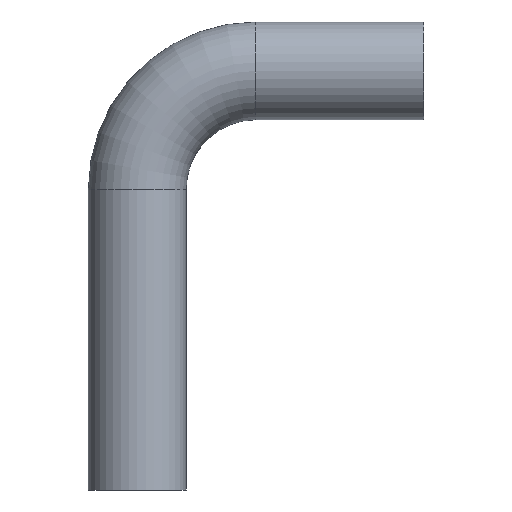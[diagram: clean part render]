
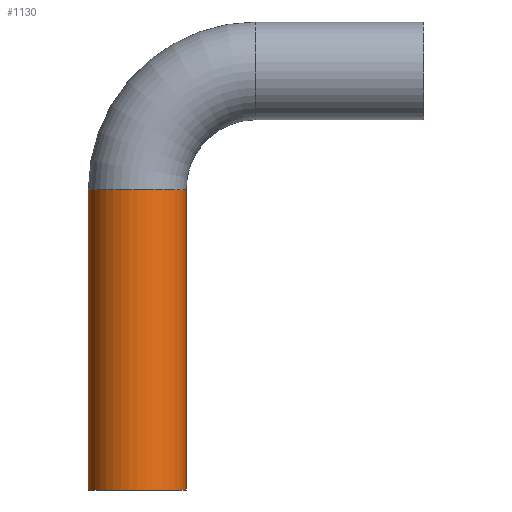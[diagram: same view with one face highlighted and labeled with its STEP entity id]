
A CAD part, front view. The second image highlights one B-rep face of the part: STEP entity #1130.
In plain terms, the highlighted cylindrical face has radius 14 mm (diameter 28 mm), a partial arc.
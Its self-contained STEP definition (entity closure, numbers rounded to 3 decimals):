
#210=CARTESIAN_POINT('',(46.433,49.631,0.));
#220=DIRECTION('',(0.,0.,1.));
#230=DIRECTION('',(1.,0.,0.));
#240=AXIS2_PLACEMENT_3D('',#210,#220,#230);
#250=CIRCLE('',#240,14.);
#260=CARTESIAN_POINT('',(60.433,49.631,0.));
#270=VERTEX_POINT('',#260);
#280=CARTESIAN_POINT('',(32.433,49.631,0.));
#290=VERTEX_POINT('',#280);
#320=EDGE_CURVE('',#290,#270,#250,.T.);
#820=CARTESIAN_POINT('',(46.433,49.631,0.));
#830=DIRECTION('',(0.,0.,1.));
#840=DIRECTION('',(1.,0.,0.));
#850=AXIS2_PLACEMENT_3D('',#820,#830,#840);
#860=CYLINDRICAL_SURFACE('',#850,14.);
#870=CARTESIAN_POINT('',(60.433,49.631,0.));
#880=DIRECTION('',(0.,0.,1.));
#890=VECTOR('',#880,1.);
#900=LINE('',#870,#890);
#910=CARTESIAN_POINT('',(60.433,49.631,86.));
#920=VERTEX_POINT('',#910);
#930=EDGE_CURVE('',#270,#920,#900,.T.);
#940=ORIENTED_EDGE('',*,*,#930,.T.);
#950=ORIENTED_EDGE('',*,*,#320,.T.);
#960=CARTESIAN_POINT('',(32.433,49.631,0.));
#970=DIRECTION('',(0.,0.,1.));
#980=VECTOR('',#970,1.);
#990=LINE('',#960,#980);
#1000=CARTESIAN_POINT('',(32.433,49.631,86.));
#1010=VERTEX_POINT('',#1000);
#1020=EDGE_CURVE('',#290,#1010,#990,.T.);
#1030=ORIENTED_EDGE('',*,*,#1020,.F.);
#1040=CARTESIAN_POINT('',(46.433,49.631,86.));
#1050=DIRECTION('',(0.,0.,1.));
#1060=DIRECTION('',(1.,0.,0.));
#1070=AXIS2_PLACEMENT_3D('',#1040,#1050,#1060);
#1080=CIRCLE('',#1070,14.);
#1090=EDGE_CURVE('',#1010,#920,#1080,.T.);
#1100=ORIENTED_EDGE('',*,*,#1090,.F.);
#1110=EDGE_LOOP('',(#1100,#1030,#950,#940));
#1120=FACE_OUTER_BOUND('',#1110,.T.);
#1130=ADVANCED_FACE('',(#1120),#860,.T.);
